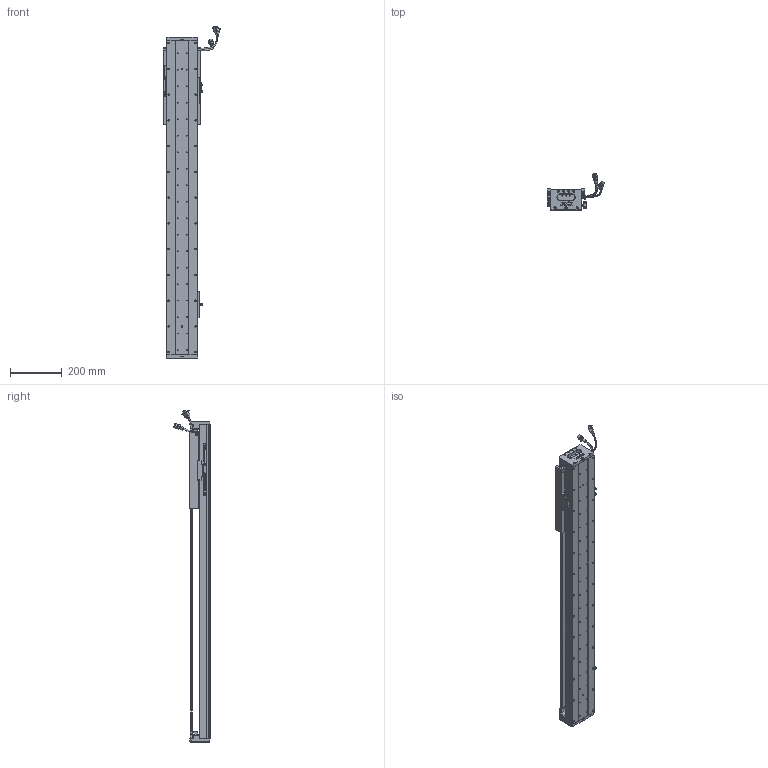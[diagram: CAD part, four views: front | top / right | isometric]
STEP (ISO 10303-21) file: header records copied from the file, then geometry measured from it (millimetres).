
FILE_DESCRIPTION (( 'STEP AP203' ), '1' );
FILE_NAME ('Z4-RY120D-1-L500-B-K.SLDASM_0850.step', '2021-05-17T06:06:41', ( '盈信电脑' ), ( '东莞市道滘镇水果街19号' ), 'SwSTEP 2.0', 'SolidWorks 2016', '' );
FILE_SCHEMA (( 'CONFIG_CONTROL_DESIGN' ));
Length unit declared in the file: millimetre
Products named in the file (37): SEAL; LABEL-Part-1; Z4-RY120-L500詩湍100mm遵_0850; 120-Z-臏賑輸盄裔(21遴); Z-RY120D詩湍奻揤裔; 覜茼ん672; SCREW-M1.6; SEAL-Part-1; 080黍杅芛假蚾釱21遴; SCREW-M1.7; COVER-Part-1; SCREW-M1.6-2; Z-RY120D詩湍狟揤裔; SCALE-Part-2; Z4-RY120-500-倰第菁釱_0850; HARNESS; HARNESS-Part-2; RY100FB-遵嫖萇覜茼え; Z4-RY120D-1-L500-B-K.SLDASM_0850; 榋妏寠巭燃_暯_M2_2; PBU_SHEET; HOLDER0; SCREW-M1.6-3; SCREW-M1.6-1; PSLH080_PSLF2; SCALE; 140雄赽晤鎢ん堤盄; Z-120詩湍傷裔啣; Z4-RY120铝滑块（21款）; SCREW-M1.7-1; 672嫖萇羲壽假蚾釱; COVER; HARNESS-Part-1; 140蚥薯蝶輸; SHIELDPLATE; SCALE-Part-1; LABEL
Assembly tree (43 placements, depth 4):
  Z4-RY120D-1-L500-B-K.SLDASM_0850
    Z4-RY120-500-倰第菁釱_0850
    覜茼ん672  x3
    672嫖萇羲壽假蚾釱  x2
    Z4-RY120铝滑块（21款）
    PSLH080_PSLF2
      SCALE
        SCALE-Part-1
        SCALE-Part-2
      HARNESS
        HARNESS-Part-1
        HARNESS-Part-2
      LABEL
        LABEL-Part-1
      COVER
        COVER-Part-1
      SEAL
        SEAL-Part-1
      榋妏寠巭燃_暯_M2_2
      SHIELDPLATE
      SCREW-M1.7
      SCREW-M1.7-1
      PBU_SHEET
      SCREW-M1.6
      SCREW-M1.6-1
      SCREW-M1.6-2
      SCREW-M1.6-3
      HOLDER0
    080黍杅芛假蚾釱21遴
    120-Z-臏賑輸盄裔(21遴)
    140雄赽晤鎢ん堤盄
    140蚥薯蝶輸  x2
    RY100FB-遵嫖萇覜茼え
    Z-120詩湍傷裔啣  x2
    Z-RY120D詩湍奻揤裔  x2
    Z-RY120D詩湍狟揤裔  x2
    Z4-RY120-L500詩湍100mm遵_0850
Bounding box: 222.88 x 140.94 x 1289 mm (x, y, z)
Volume: 3664866.9 mm3; surface area: 1202085.3 mm2
Topology: 38 solids, 38 shells, 2965 faces, 8100 edges, 5116 vertices
Faces by surface type: cylinder 1404, plane 1145, cone 294, torus 69, bspline 53
Entity records: 91305 total; most frequent: CARTESIAN_POINT 25190, ORIENTED_EDGE 13136, DIRECTION 12710, EDGE_CURVE 6568, AXIS2_PLACEMENT_3D 4662, VERTEX_POINT 4236, LINE 3386, VECTOR 3386
